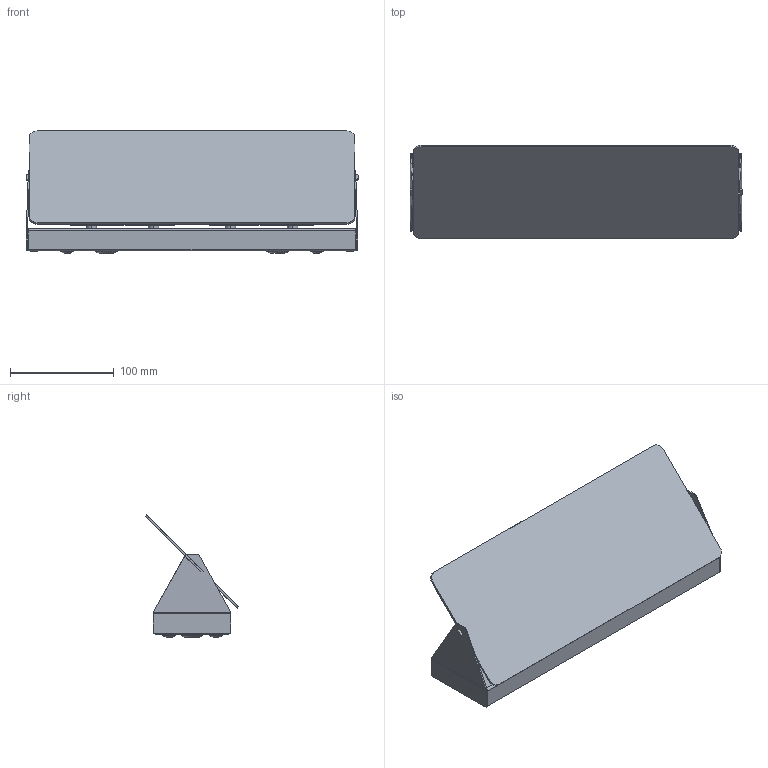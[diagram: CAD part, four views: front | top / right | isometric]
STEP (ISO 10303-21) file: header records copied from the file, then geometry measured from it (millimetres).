
FILE_DESCRIPTION (( 'STEP AP214' ), '1' );
FILE_NAME ('3D_APPLIQUE_A_VOLET_PIVOTANT_DOUBLE_R7s.STEP', '2018-03-23T09:55:59', ( 'Utente' ), ( '' ), 'SwSTEP 2.0', 'SolidWorks 2016', '' );
FILE_SCHEMA (( 'AUTOMOTIVE_DESIGN' ));
Length unit declared in the file: millimetre
Products named in the file (5): 010AVP700331 VOLE DOUBLEMARTI-1^Assieme1; Parte3^Assieme1; Group3^Assieme1; Group5^Assieme1; 3D_APPLIQUE_A_VOLET_PIVOTANT_DOUBLE_R7s
Assembly tree (4 placements, depth 2):
  3D_APPLIQUE_A_VOLET_PIVOTANT_DOUBLE_R7s
    Group5^Assieme1
    Group3^Assieme1
    Parte3^Assieme1
    010AVP700331 VOLE DOUBLEMARTI-1^Assieme1
Bounding box: 320 x 89.8 x 117.6 mm (x, y, z)
Volume: 247322.4 mm3; surface area: 302084 mm2
Topology: 6 solids, 6 shells, 344 faces, 822 edges, 504 vertices
Faces by surface type: plane 183, cylinder 109, torus 32, cone 16, bspline 4
Entity records: 10622 total; most frequent: DIRECTION 1812, CARTESIAN_POINT 1729, ORIENTED_EDGE 1644, EDGE_CURVE 822, AXIS2_PLACEMENT_3D 651, LINE 510, VECTOR 510, VERTEX_POINT 504
